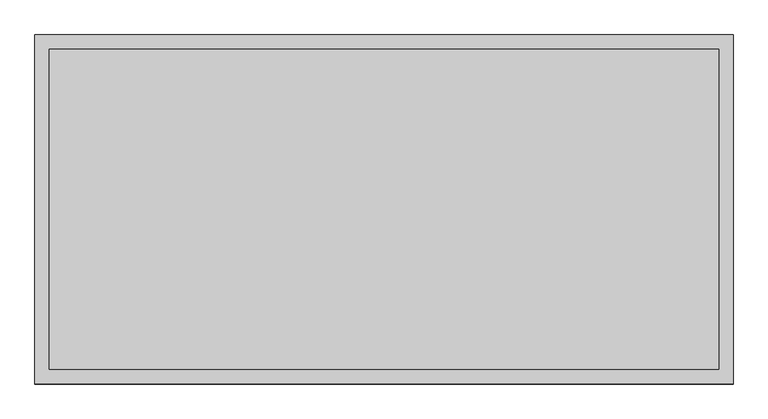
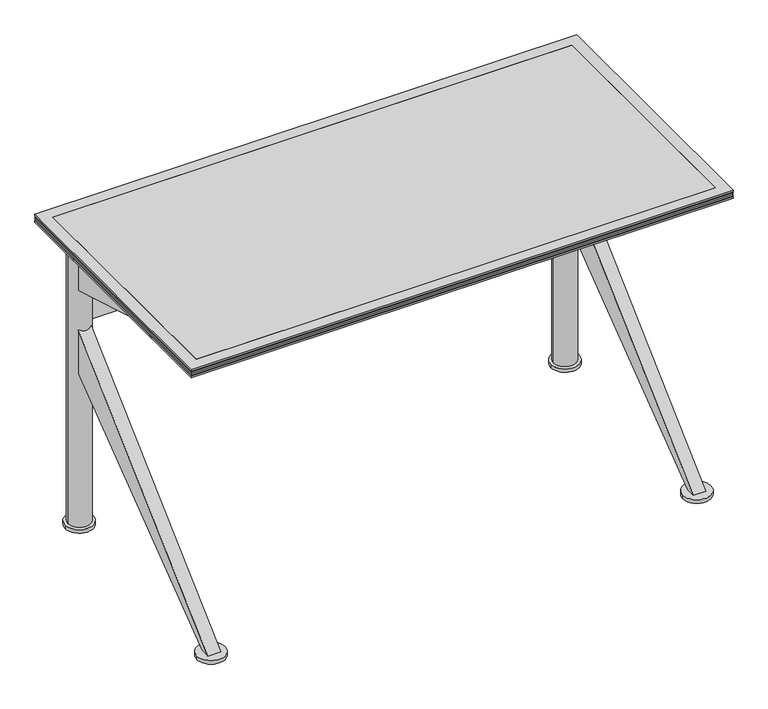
"""IFC4 building model written with IfcOpenShell, lengths in millimetres: furniture geometry, Coalesse_AM_Table_Conference_Ballet_Rectangular_KBase : Folding - 48L x 24W."""

from ifc_helpers import new_model, si_unit, point, frame, frame_2d, origin, origin_with_axes, place, context, project, spatial, polyline, circle_curve, trimmed, segment, composite_curve, outline, extrude, faceted_brep, source, transform, mapped, element, save
from ifc_brep_helpers import plane_surface, cylinder_surface, advanced_brep


def furniture_1427e825(model_context):
    return source(origin(), model_context, "Body", "SolidModel", [
        extrude(outline(composite_curve([segment(trimmed(circle_curve(frame_2d((-547.0092495, -273.05)), 25.4), [point((-572.4092495, -273.05))], [point((-521.6092495, -273.05))], False, "CARTESIAN"), True, "CONTINUOUS"), segment(trimmed(circle_curve(frame_2d((-547.0092495, -273.05)), 25.4), [point((-521.6092495, -273.05))], [point((-572.4092495, -273.05))], False, "CARTESIAN"), True, "CONTINUOUS")], self_intersect=False)), origin_with_axes(), (0.0, 0.0, 1.0), 4.2936144),
        extrude(outline(composite_curve([segment(trimmed(circle_curve(frame_2d((546.2624629, -273.05)), 25.4), [point((520.8624629, -273.05))], [point((571.6624629, -273.05))], False, "CARTESIAN"), True, "CONTINUOUS"), segment(trimmed(circle_curve(frame_2d((546.2624629, -273.05)), 25.4), [point((571.6624629, -273.05))], [point((520.8624629, -273.05))], False, "CARTESIAN"), True, "CONTINUOUS")], self_intersect=False)), origin_with_axes(), (0.0, 0.0, 1.0), 4.2936144),
        extrude(outline(composite_curve([segment(trimmed(circle_curve(frame_2d((546.2154995, 240.615286)), 25.4), [point((571.6154995, 240.615286))], [point((520.8154995, 240.615286))], False, "CARTESIAN"), True, "CONTINUOUS"), segment(trimmed(circle_curve(frame_2d((546.2154995, 240.615286)), 25.4), [point((520.8154995, 240.615286))], [point((571.6154995, 240.615286))], False, "CARTESIAN"), True, "CONTINUOUS")], self_intersect=False)), origin_with_axes(), (0.0, 0.0, 1.0), 4.2936144),
        extrude(outline(composite_curve([segment(trimmed(circle_curve(frame_2d((-547.0562129, 240.615286)), 25.4), [point((-521.6562129, 240.615286))], [point((-572.4562129, 240.615286))], False, "CARTESIAN"), True, "CONTINUOUS"), segment(trimmed(circle_curve(frame_2d((-547.0562129, 240.615286)), 25.4), [point((-572.4562129, 240.615286))], [point((-521.6562129, 240.615286))], False, "CARTESIAN"), True, "CONTINUOUS")], self_intersect=False)), origin_with_axes(), (0.0, 0.0, 1.0), 4.2936144),
        extrude(outline(composite_curve([segment(trimmed(circle_curve(frame_2d((546.2154995, 240.615286)), 31.75), [point((577.9654995, 240.615286))], [point((514.4654995, 240.615286))], False, "CARTESIAN"), True, "CONTINUOUS"), segment(trimmed(circle_curve(frame_2d((546.2154995, 240.615286)), 31.75), [point((514.4654995, 240.615286))], [point((577.9654995, 240.615286))], False, "CARTESIAN"), True, "CONTINUOUS")], self_intersect=False)), frame((0.0, 0.0, 4.2936144), z_axis=(0.0, 0.0, 1.0), x_axis=(1.0, 0.0, 0.0)), (0.0, 0.0, 1.0), 8.4063856),
        extrude(outline(composite_curve([segment(trimmed(circle_curve(frame_2d((-547.0562129, 240.615286)), 31.75), [point((-515.3062129, 240.615286))], [point((-578.8062129, 240.615286))], False, "CARTESIAN"), True, "CONTINUOUS"), segment(trimmed(circle_curve(frame_2d((-547.0562129, 240.615286)), 31.75), [point((-578.8062129, 240.615286))], [point((-515.3062129, 240.615286))], False, "CARTESIAN"), True, "CONTINUOUS")], self_intersect=False)), frame((0.0, 0.0, 4.2936144), z_axis=(0.0, 0.0, 1.0), x_axis=(1.0, 0.0, 0.0)), (0.0, 0.0, 1.0), 8.4063856),
        extrude(outline(polyline([(220.2656271, 577.7388634), (-193.674901, 698.5000242), (-161.924901, 698.5000242), (220.2656271, 641.3500242), (220.2656271, 577.7388634)])), frame((-560.4007845, 0.0, 0.0), z_axis=(1.0, 0.0, 0.0), x_axis=(0.0, 1.0, 0.0)), (0.0, 0.0, 1.0), 28.5877899),
        extrude(outline(polyline([(220.2656271, 381.0), (-261.9375951, 12.7), (-284.1624013, 12.7), (220.2656271, 482.7111245), (220.2656271, 381.0)])), frame((-560.4007845, 0.0, 0.0), z_axis=(1.0, 0.0, 0.0), x_axis=(0.0, 1.0, 0.0)), (0.0, 0.0, 1.0), 28.5877899),
        extrude(outline(polyline([(220.2656271, 577.7388634), (-193.674901, 698.5000242), (-161.924901, 698.5000242), (220.2656271, 641.3500242), (220.2656271, 577.7388634)])), frame((531.8121992, 0.0, 0.0), z_axis=(1.0, 0.0, 0.0), x_axis=(0.0, 1.0, 0.0)), (0.0, 0.0, 1.0), 28.575),
        extrude(outline(polyline([(220.2656271, 381.0), (-261.9375951, 12.7), (-284.1624013, 12.7), (220.2656271, 482.7111245), (220.2656271, 381.0)])), frame((531.8121992, 0.0, 0.0), z_axis=(1.0, 0.0, 0.0), x_axis=(0.0, 1.0, 0.0)), (0.0, 0.0, 1.0), 28.575),
        advanced_brep(
        [(524.1033169, 228.6000021, 568.3250121), (-524.1033169, 228.6000021, 568.3250121), (-524.1033169, 228.6000021, 492.1250121), (524.1033169, 228.6000021, 492.1250121), (-520.7003634, 241.3, 492.1250121), (-524.1032635, 253.9999052, 492.1250121), (524.1032635, 253.9999052, 492.1250121), (520.7003634, 241.3, 492.1250121), (-524.1032635, 253.9999052, 568.3250121), (524.1032635, 253.9999052, 568.3250121), (520.7003634, 241.3, 568.3250121), (-520.7003634, 241.3, 568.3250121), (-571.5003633, 241.3, 698.5000242), (-520.7003634, 241.3, 698.5000242), (520.7003634, 241.3, 698.5000242), (571.5003633, 241.3, 698.5000242), (-571.5003633, 241.3, 12.7), (-520.7003634, 241.3, 12.7), (520.7003634, 241.3, 12.7), (571.5003633, 241.3, 12.7)],
        [
            (0, 1),
            (1, 2),
            (2, 3),
            (3, 0),
            (2, 4, circle_curve(frame((-546.1003633, 241.3, 492.1250121), z_axis=(0.0, 0.0, 1.0), x_axis=(1.0, 0.0, 0.0)), 25.3999999)),
            (4, 5, circle_curve(frame((-546.1003633, 241.3, 492.1250121), z_axis=(0.0, 0.0, 1.0), x_axis=(1.0, 0.0, 0.0)), 25.3999999)),
            (5, 6),
            (6, 7, circle_curve(frame((546.1003633, 241.3, 492.1250121), z_axis=(0.0, 0.0, 1.0), x_axis=(1.0, 0.0, 0.0)), 25.3999999)),
            (7, 3, circle_curve(frame((546.1003633, 241.3, 492.1250121), z_axis=(0.0, 0.0, 1.0), x_axis=(1.0, 0.0, 0.0)), 25.3999999)),
            (5, 8),
            (8, 9),
            (9, 6),
            (0, 10, circle_curve(frame((546.1003633, 241.3, 568.3250121), z_axis=(0.0, 0.0, -1.0), x_axis=(1.0, 0.0, 0.0)), 25.3999999)),
            (10, 9, circle_curve(frame((546.1003633, 241.3, 568.3250121), z_axis=(0.0, 0.0, -1.0), x_axis=(1.0, 0.0, 0.0)), 25.3999999)),
            (8, 11, circle_curve(frame((-546.1003633, 241.3, 568.3250121), z_axis=(0.0, 0.0, -1.0), x_axis=(1.0, 0.0, 0.0)), 25.3999999)),
            (11, 1, circle_curve(frame((-546.1003633, 241.3, 568.3250121), z_axis=(0.0, 0.0, -1.0), x_axis=(1.0, 0.0, 0.0)), 25.3999999)),
            (12, 13, circle_curve(frame((-546.1003633, 241.3, 698.5000242), z_axis=(0.0, 0.0, 1.0), x_axis=(1.0, 0.0, 0.0)), 25.3999999)),
            (13, 12, circle_curve(frame((-546.1003633, 241.3, 698.5000242), z_axis=(0.0, 0.0, 1.0), x_axis=(1.0, 0.0, 0.0)), 25.3999999)),
            (14, 15, circle_curve(frame((546.1003633, 241.3, 698.5000242), z_axis=(0.0, 0.0, 1.0), x_axis=(1.0, 0.0, 0.0)), 25.3999999)),
            (15, 14, circle_curve(frame((546.1003633, 241.3, 698.5000242), z_axis=(0.0, 0.0, 1.0), x_axis=(1.0, 0.0, 0.0)), 25.3999999)),
            (16, 17, circle_curve(frame((-546.1003633, 241.3, 12.7), z_axis=(0.0, 0.0, -1.0), x_axis=(1.0, 0.0, 0.0)), 25.3999999)),
            (17, 16, circle_curve(frame((-546.1003633, 241.3, 12.7), z_axis=(0.0, 0.0, -1.0), x_axis=(1.0, 0.0, 0.0)), 25.3999999)),
            (18, 19, circle_curve(frame((546.1003633, 241.3, 12.7), z_axis=(0.0, 0.0, -1.0), x_axis=(1.0, 0.0, 0.0)), 25.3999999)),
            (19, 18, circle_curve(frame((546.1003633, 241.3, 12.7), z_axis=(0.0, 0.0, -1.0), x_axis=(1.0, 0.0, 0.0)), 25.3999999)),
            (12, 16),
            (17, 4),
            (11, 13),
            (14, 10),
            (7, 18),
            (19, 15),
        ],
        [
            plane_surface(frame((531.8121992, 228.6000021, 568.3250121), z_axis=(0.0, -1.0, 0.0), x_axis=(-1.0, 0.0, 0.0))),
            plane_surface(frame((531.8121992, 228.6000021, 492.1250121), z_axis=(0.0, 0.0, -1.0), x_axis=(-1.0, 0.0, 0.0))),
            plane_surface(frame((531.8121992, 253.9999052, 492.1250121), z_axis=(0.0, 1.0, 0.0), x_axis=(-1.0, 0.0, 0.0))),
            plane_surface(frame((531.8121992, 253.9999052, 568.3250121), z_axis=(0.0, 0.0, 1.0), x_axis=(-1.0, 0.0, 0.0))),
            plane_surface(frame((-520.7003634, 241.3, 698.5000242), z_axis=(0.0, 0.0, 1.0), x_axis=(0.0, 1.0, 0.0))),
            plane_surface(frame((-520.7003634, 241.3, 12.7), z_axis=(0.0, 0.0, -1.0), x_axis=(0.0, -1.0, 0.0))),
            cylinder_surface(frame((-546.1003633, 241.3, 12.7), z_axis=(0.0, 0.0, 1.0), x_axis=(1.0, 0.0, 0.0)), 25.3999999),
            cylinder_surface(frame((546.1003633, 241.3, 0.0), z_axis=(0.0, 0.0, 1.0), x_axis=(1.0, 0.0, 0.0)), 25.3999999),
        ],
        [
            (0, [[1, 2, 3, 4]]),
            (1, [[-3, 5, 6, 7, 8, 9]]),
            (2, [[-7, 10, 11, 12]]),
            (3, [[-1, 13, 14, -11, 15, 16]]),
            (4, [[17, 18]]),
            (4, [[19, 20]]),
            (5, [[21, 22]]),
            (5, [[23, 24]]),
            (6, [[-17, 25, -22, 26, -5, -2, -16, 27]]),
            (6, [[-18, -27, -15, -10, -6, -26, -21, -25]]),
            (7, [[-19, 28, -13, -4, -9, 29, -24, 30]]),
            (7, [[-20, -30, -23, -29, -8, -12, -14, -28]]),
        ],
    ),
        extrude(outline(composite_curve([segment(trimmed(circle_curve(frame_2d((-547.0092495, -273.05)), 31.75), [point((-578.7592495, -273.05))], [point((-515.2592495, -273.05))], False, "CARTESIAN"), True, "CONTINUOUS"), segment(trimmed(circle_curve(frame_2d((-547.0092495, -273.05)), 31.75), [point((-515.2592495, -273.05))], [point((-578.7592495, -273.05))], False, "CARTESIAN"), True, "CONTINUOUS")], self_intersect=False)), frame((0.0, 0.0, 4.2936144), z_axis=(0.0, 0.0, 1.0), x_axis=(1.0, 0.0, 0.0)), (0.0, 0.0, 1.0), 8.4063856),
        extrude(outline(composite_curve([segment(trimmed(circle_curve(frame_2d((546.2624629, -273.05)), 31.75), [point((514.5124629, -273.05))], [point((578.0124629, -273.05))], False, "CARTESIAN"), True, "CONTINUOUS"), segment(trimmed(circle_curve(frame_2d((546.2624629, -273.05)), 31.75), [point((578.0124629, -273.05))], [point((514.5124629, -273.05))], False, "CARTESIAN"), True, "CONTINUOUS")], self_intersect=False)), frame((0.0, 0.0, 4.2936144), z_axis=(0.0, 0.0, 1.0), x_axis=(1.0, 0.0, 0.0)), (0.0, 0.0, 1.0), 8.4063856),
        faceted_brep([(-609.6003633, 304.8, 704.85), (-584.2003876, 279.4000242, 698.5000242), (-584.2003876, -279.3999516, 698.5000242), (-609.6003633, -304.7999273, 704.85), (-609.6003633, 304.8, 708.0250242), (-609.6003633, -304.7999273, 708.0250242), (-606.4253755, 301.6250121, 709.6125), (-606.4253755, -301.6249394, 709.6125), (-609.6003633, 304.8, 711.1999758), (-609.6003633, -304.7999273, 711.1999758), (-606.4253755, 301.6250121, 712.7875242), (-606.4253755, -301.6249394, 712.7875242), (-609.6003633, 304.8, 714.375), (-609.6003633, -304.7999273, 714.375), (-606.4253755, 301.6250121, 715.9624758), (-606.4253755, -301.6249394, 715.9624758), (-609.6003633, 304.8, 717.5500242), (-609.6003633, -304.7999273, 717.5500242), (-606.4253755, 301.6250121, 719.1375), (-606.4253755, -301.6249394, 719.1375), (-609.6003633, 304.8, 720.7249758), (-609.6003633, -304.7999273, 720.7249758), (-609.6003633, 304.8, 723.9), (-609.6003633, -304.7999273, 723.9), (-584.2003876, 279.4000242, 723.9), (-584.2003876, -279.3999516, 723.9), (584.1998062, -279.3999516, 698.5000242), (609.599782, -304.7999273, 704.85), (609.599782, -304.7999273, 708.0250242), (606.4247941, -301.6249394, 709.6125), (609.599782, -304.7999273, 711.1999758), (606.4247941, -301.6249394, 712.7875242), (609.599782, -304.7999273, 714.375), (606.4247941, -301.6249394, 715.9624758), (609.599782, -304.7999273, 717.5500242), (606.4247941, -301.6249394, 719.1375), (609.599782, -304.7999273, 720.7249758), (609.599782, -304.7999273, 723.9), (584.1998062, -279.3999516, 723.9), (584.1998062, 279.4000242, 698.5000242), (609.599782, 304.8, 704.85), (609.599782, 304.8, 708.0250242), (606.4247941, 301.6250121, 709.6125), (609.599782, 304.8, 711.1999758), (606.4247941, 301.6250121, 712.7875242), (609.599782, 304.8, 714.375), (606.4247941, 301.6250121, 715.9624758), (609.599782, 304.8, 717.5500242), (606.4247941, 301.6250121, 719.1375), (609.599782, 304.8, 720.7249758), (609.599782, 304.8, 723.9), (584.1998062, 279.4000242, 723.9)], [[[0, 1, 2, 3]], [[4, 0, 3, 5]], [[6, 4, 5, 7]], [[8, 6, 7, 9]], [[10, 8, 9, 11]], [[12, 10, 11, 13]], [[14, 12, 13, 15]], [[16, 14, 15, 17]], [[18, 16, 17, 19]], [[20, 18, 19, 21]], [[22, 20, 21, 23]], [[1, 24, 25, 2]], [[3, 2, 26, 27]], [[5, 3, 27, 28]], [[7, 5, 28, 29]], [[9, 7, 29, 30]], [[11, 9, 30, 31]], [[13, 11, 31, 32]], [[15, 13, 32, 33]], [[17, 15, 33, 34]], [[19, 17, 34, 35]], [[21, 19, 35, 36]], [[23, 21, 36, 37]], [[2, 25, 38, 26]], [[27, 26, 39, 40]], [[28, 27, 40, 41]], [[29, 28, 41, 42]], [[30, 29, 42, 43]], [[31, 30, 43, 44]], [[32, 31, 44, 45]], [[33, 32, 45, 46]], [[34, 33, 46, 47]], [[35, 34, 47, 48]], [[36, 35, 48, 49]], [[37, 36, 49, 50]], [[26, 38, 51, 39]], [[40, 39, 1, 0]], [[41, 40, 0, 4]], [[42, 41, 4, 6]], [[43, 42, 6, 8]], [[44, 43, 8, 10]], [[45, 44, 10, 12]], [[46, 45, 12, 14]], [[47, 46, 14, 16]], [[48, 47, 16, 18]], [[49, 48, 18, 20]], [[50, 49, 20, 22]], [[23, 37, 50, 22], [24, 51, 38, 25]], [[39, 51, 24, 1]]]),
        extrude(outline(polyline([(584.1998062, 279.4000242), (584.1998062, -279.3999516), (-584.2003876, -279.3999516), (-584.2003876, 279.4000242), (584.1998062, 279.4000242)])), frame((0.0, 0.0, 704.85), z_axis=(0.0, 0.0, 1.0), x_axis=(1.0, 0.0, 0.0)), (0.0, 0.0, 1.0), 19.05),
    ])


if __name__ == "__main__":
    model = new_model("IFC4")
    model_context = context("Model", 3, world=origin())
    ifc_project = project(units=[si_unit("LENGTHUNIT", "METRE", prefix="MILLI")], contexts=[model_context])
    site = spatial("IfcSite", under=ifc_project)
    building = spatial("IfcBuilding", under=site)
    placement = place(None, origin())
    furniture_shape = furniture_1427e825(model_context)
    element("IfcFurniture", 1, ObjectType="Coalesse_AM_Table_Conference_Ballet_Rectangular_KBase : Folding - 48L x 24W", at=placement, inside=building, context=model_context, shape_type="MappedRepresentation", body=[
        mapped(furniture_shape, transform((0.0, 0.0, 0.0), x_axis=(1.0, 0.0, 0.0), y_axis=(0.0, 1.0, 0.0), z_axis=(0.0, 0.0, 1.0))),
    ])
    save(model, "model.ifc")
